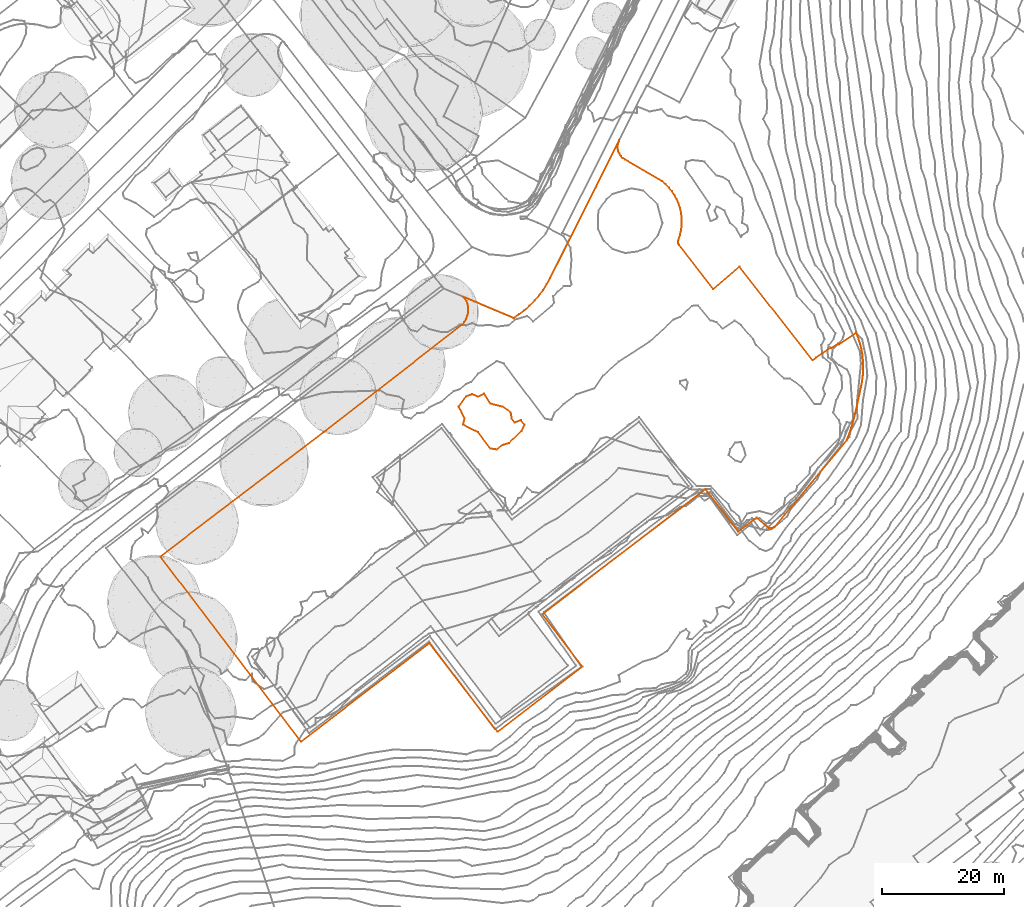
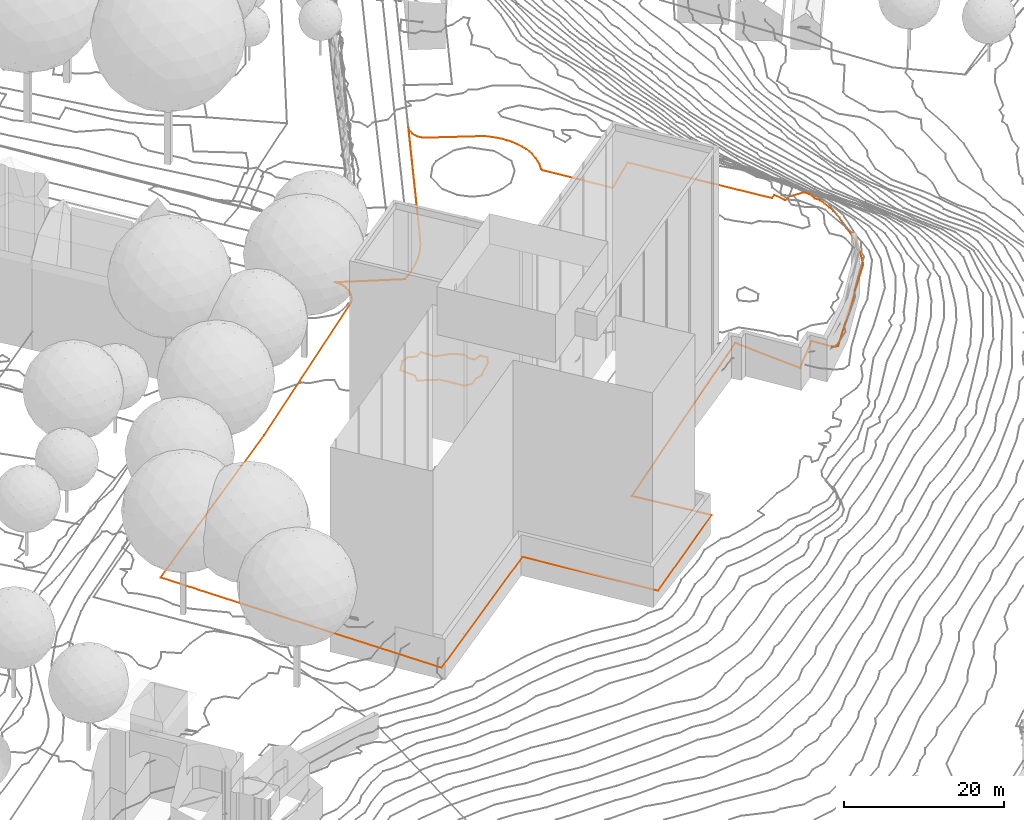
# Not in any storey, part 136 of 494: 2 proxies.
"""IFC2X3 model written with IfcOpenShell, lengths in metres."""

from ifc_helpers import new_model, entity, si_unit, frame, origin_with_axes, place, context, subcontext, project, element, save


model = new_model("IFC2X3")

# Units and contexts
model_context = context("Model", 3, precision=1e-05, world=origin_with_axes())
body_context = subcontext(model_context, "Body", "Model", "MODEL_VIEW")
ifc_project = project(units=[si_unit("AREAUNIT", "SQUARE_METRE"), si_unit("LENGTHUNIT", "METRE")], contexts=[model_context])

# Proxies
proxy_1_placement = place(None, frame((192.7217320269, 123.6467160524, 533.3610598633), z_axis=(0.0, 0.0, 1.0), x_axis=(1.0, 0.0, 0.0)))
element("IfcBuildingElementProxy", 1, at=proxy_1_placement, Name="Roads Outline 78", ObjectType="NOTDEFINED", context=body_context, shape_type="GeometricCurveSet", body=[
    entity("IfcGeometricCurveSet", [entity("IfcPolyline", [entity("IfcCartesianPoint", [0.0, 0.0, 0.0]), entity("IfcCartesianPoint", [26.665, 20.311, 0.0783568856]), entity("IfcCartesianPoint", [49.361, 37.9169999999, 1.6142582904]), entity("IfcCartesianPoint", [49.693, 38.3230000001, 1.6380722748]), entity("IfcCartesianPoint", [49.963, 38.773, 1.659560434]), entity("IfcCartesianPoint", [50.1639999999, 39.257, 1.6822640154]), entity("IfcCartesianPoint", [50.2929999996, 39.7660000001, 1.7077979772]), entity("IfcCartesianPoint", [50.3449999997, 40.267, 1.7347009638]), entity("IfcCartesianPoint", [50.3259999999, 40.7709999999, 1.7659059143]), entity("IfcCartesianPoint", [50.2369999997, 41.2660000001, 1.8036553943]), entity("IfcCartesianPoint", [50.0799999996, 41.7450000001, 1.8477309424]), entity("IfcCartesianPoint", [49.5649999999, 42.426, 1.9088651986]), entity("IfcCartesianPoint", [57.7339999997, 38.9779999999, 1.6018902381]), entity("IfcCartesianPoint", [58.6669999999, 39.595, 1.6249802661]), entity("IfcCartesianPoint", [59.5549999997, 40.2749999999, 1.6696491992]), entity("IfcCartesianPoint", [60.3929999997, 41.0160000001, 1.678795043]), entity("IfcCartesianPoint", [61.1769999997, 41.8130000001, 1.680672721]), entity("IfcCartesianPoint", [61.9039999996, 42.6629999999, 1.6909051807]), entity("IfcCartesianPoint", [62.5689999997, 43.5630000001, 1.7062256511]), entity("IfcCartesianPoint", [63.1699999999, 44.5060000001, 1.7132764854]), entity("IfcCartesianPoint", [63.7029999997, 45.4890000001, 1.7127361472]), entity("IfcCartesianPoint", [67.0759999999, 52.206, 1.5933429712]), entity("IfcCartesianPoint", [67.0819999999, 52.219, 1.5929419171]), entity("IfcCartesianPoint", [75.0389999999, 68.0660000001, 0.9681800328]), entity("IfcCartesianPoint", [74.9779999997, 67.9399999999, 0.9758857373]), entity("IfcCartesianPoint", [74.8359999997, 67.527, 1.0073177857]), entity("IfcCartesianPoint", [74.7719999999, 67.095, 1.0427085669]), entity("IfcCartesianPoint", [74.7879999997, 66.659, 1.0225267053]), entity("IfcCartesianPoint", [74.8819999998, 66.233, 0.9968149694]), entity("IfcCartesianPoint", [75.0529999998, 65.831, 1.003539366]), entity("IfcCartesianPoint", [75.2929999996, 65.4669999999, 1.0168488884]), entity("IfcCartesianPoint", [75.5959999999, 65.1529999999, 1.0277638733]), entity("IfcCartesianPoint", [75.9509999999, 64.899, 1.0776635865]), entity("IfcCartesianPoint", [82.014, 61.3389999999, 1.3449982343]), entity("IfcCartesianPoint", [82.6029999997, 60.8470000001, 1.3465220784]), entity("IfcCartesianPoint", [83.1439999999, 60.3019999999, 1.3530904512]), entity("IfcCartesianPoint", [83.6319999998, 59.709, 1.3507704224]), entity("IfcCartesianPoint", [84.0619999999, 59.074, 1.3562914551]), entity("IfcCartesianPoint", [84.4309999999, 58.4010000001, 1.3712443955]), entity("IfcCartesianPoint", [84.736, 57.696, 1.3712933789]), entity("IfcCartesianPoint", [84.9739999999, 56.966, 1.3614248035]), entity("IfcCartesianPoint", [85.142, 56.2169999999, 1.402655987]), entity("IfcCartesianPoint", [85.2379999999, 55.476, 1.4142515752]), entity("IfcCartesianPoint", [85.2649999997, 54.7290000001, 1.3981549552]), entity("IfcCartesianPoint", [85.2249999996, 53.983, 1.3682941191]), entity("IfcCartesianPoint", [85.1169999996, 53.243, 1.3881761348]), entity("IfcCartesianPoint", [84.9419999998, 52.517, 1.3935935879]), entity("IfcCartesianPoint", [84.702, 51.8089999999, 1.3702098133]), entity("IfcCartesianPoint", [84.6359999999, 51.5630000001, 1.3625615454]), entity("IfcCartesianPoint", [84.6429999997, 51.308, 1.3628553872]), entity("IfcCartesianPoint", [84.7179999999, 51.0759999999, 1.3692013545]), entity("IfcCartesianPoint", [84.855, 50.8729999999, 1.3742204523]), entity("IfcCartesianPoint", [90.4159999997, 43.6939999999, 1.2071708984]), entity("IfcCartesianPoint", [94.6769999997, 47.4140000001, 1.3176867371]), entity("IfcCartesianPoint", [106.6310000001, 32.0759999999, 1.0140922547]), entity("IfcCartesianPoint", [107.2459999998, 32.5190000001, 1.0269419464]), entity("IfcCartesianPoint", [109.5989999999, 34.1429999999, -1.5001288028]), entity("IfcCartesianPoint", [109.6799999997, 34.04, -1.5689479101]), entity("IfcCartesianPoint", [110.801, 34.8, -1.6497977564]), entity("IfcCartesianPoint", [110.9049999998, 34.6229999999, -1.6929800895]), entity("IfcCartesianPoint", [113.7959999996, 36.581, -3.3467531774]), entity("IfcCartesianPoint", [114.1310000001, 35.71, -3.1930935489]), entity("IfcCartesianPoint", [114.4099999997, 34.8189999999, -3.3973374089]), entity("IfcCartesianPoint", [114.6299999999, 33.912, -3.2356732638]), entity("IfcCartesianPoint", [114.7909999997, 32.993, -3.2360979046]), entity("IfcCartesianPoint", [114.8929999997, 32.0649999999, -3.2684172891]), entity("IfcCartesianPoint", [114.9339999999, 31.1329999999, -3.3013843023]), entity("IfcCartesianPoint", [114.9199999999, 30.3049999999, -3.2383053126]), entity("IfcCartesianPoint", [114.8589999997, 29.4790000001, -3.2572915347]), entity("IfcCartesianPoint", [114.7509999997, 28.6580000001, -3.295915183]), entity("IfcCartesianPoint", [114.5959999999, 27.845, -3.2791216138]), entity("IfcCartesianPoint", [113.5269999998, 22.9909999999, -2.4439658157]), entity("IfcCartesianPoint", [113.1969999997, 21.807, -2.615231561]), entity("IfcCartesianPoint", [112.8329999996, 20.6340000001, -2.8535542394]), entity("IfcCartesianPoint", [112.4339999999, 19.4720000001, -3.0322717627]), entity("IfcCartesianPoint", [112.3939999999, 19.27, -3.1093520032]), entity("IfcCartesianPoint", [112.3049999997, 19.084, -3.1495307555]), entity("IfcCartesianPoint", [112.1749999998, 18.925, -3.126462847]), entity("IfcCartesianPoint", [100.4789999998, 4.8459999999, -2.7600516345]), entity("IfcCartesianPoint", [100.3739999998, 4.763, -2.7320329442]), entity("IfcCartesianPoint", [100.2579999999, 4.696, -2.7025440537]), entity("IfcCartesianPoint", [100.0219999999, 4.6170000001, -2.6344110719]), entity("IfcCartesianPoint", [99.7749999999, 4.601, -2.551304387]), entity("IfcCartesianPoint", [99.531, 4.6499999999, -2.4543687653]), entity("IfcCartesianPoint", [99.3079999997, 4.7609999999, -2.3950980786]), entity("IfcCartesianPoint", [99.122, 4.925, -2.3500103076]), entity("IfcCartesianPoint", [97.4619999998, 6.308, -1.919248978]), entity("IfcCartesianPoint", [94.503, 4.041, -3.6336605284]), entity("IfcCartesianPoint", [89.1549999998, 11.0220000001, -2.1537781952]), entity("IfcCartesianPoint", [62.466, -9.4399999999, -3.7143182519]), entity("IfcCartesianPoint", [69.0099999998, -17.9920000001, -3.7390461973]), entity("IfcCartesianPoint", [55.1439999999, -28.6910000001, -3.915154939]), entity("IfcCartesianPoint", [43.9919999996, -14.1580000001, -3.6729372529]), entity("IfcCartesianPoint", [23.0, -30.2890000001, -3.4368281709]), entity("IfcCartesianPoint", [0.0, 0.0, 0.0])])]),
])
proxy_2_placement = place(None, frame((241.5163064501, 148.1707160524, 533.0), z_axis=(0.0, 0.0, 1.0), x_axis=(1.0, 0.0, 0.0)))
element("IfcBuildingElementProxy", 2, at=proxy_2_placement, Name="Contour Line 533.0 m", ObjectType="NOTDEFINED", context=body_context, shape_type="GeometricCurveSet", body=[
    entity("IfcGeometricCurveSet", [entity("IfcPolyline", [entity("IfcCartesianPoint", [6.1614255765, -7.0357526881, 0.0]), entity("IfcCartesianPoint", [7.1614255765, -6.3046414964, 0.0]), entity("IfcCartesianPoint", [8.1886565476, -6.0, 0.0]), entity("IfcCartesianPoint", [10.2500406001, -4.0, 0.0]), entity("IfcCartesianPoint", [10.748092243, -3.0, 0.0]), entity("IfcCartesianPoint", [10.1614255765, -2.2391930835, 0.0]), entity("IfcCartesianPoint", [9.1614255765, -2.6216216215, 0.0]), entity("IfcCartesianPoint", [8.6503144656, -2.0, 0.0]), entity("IfcCartesianPoint", [8.4993251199, -1.0, 0.0]), entity("IfcCartesianPoint", [7.1614255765, -0.0560747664, 0.0]), entity("IfcCartesianPoint", [5.1614255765, 0.4610591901, 0.0]), entity("IfcCartesianPoint", [4.1614255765, 2.0946564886, 0.0]), entity("IfcCartesianPoint", [3.1614255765, 1.5744125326, 0.0]), entity("IfcCartesianPoint", [2.1614255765, 1.9826370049, 0.0]), entity("IfcCartesianPoint", [1.1614255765, 1.6355785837, 0.0]), entity("IfcCartesianPoint", [0.0, 0.0, 0.0]), entity("IfcCartesianPoint", [0.9454255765, -2.0, 0.0]), entity("IfcCartesianPoint", [0.667172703, -3.0, 0.0]), entity("IfcCartesianPoint", [3.1614255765, -4.2334047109, 0.0]), entity("IfcCartesianPoint", [5.1614255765, -6.8816901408, 0.0]), entity("IfcCartesianPoint", [6.1614255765, -7.0357526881, 0.0])])]),
])

save(model, "model.ifc")
